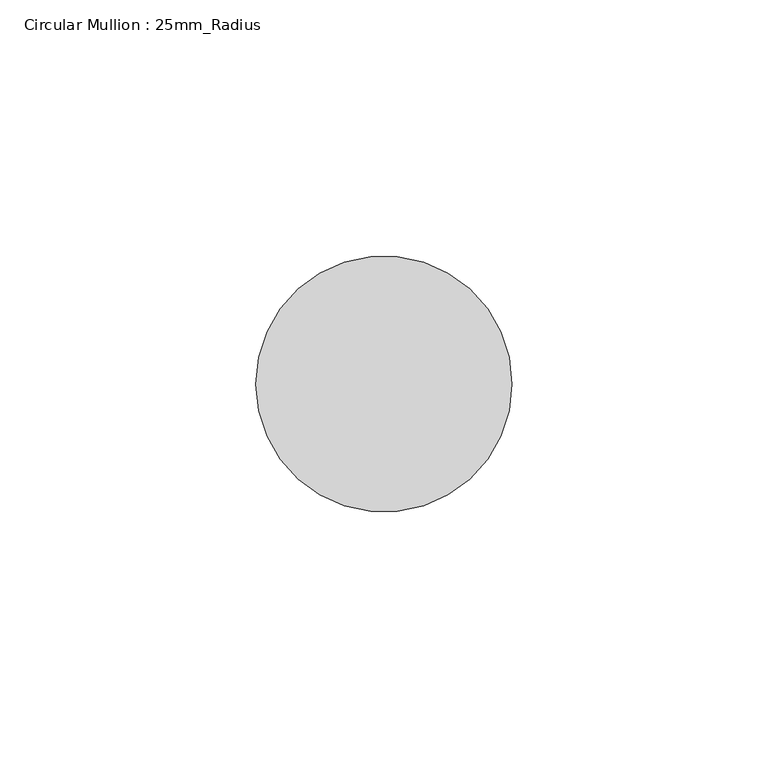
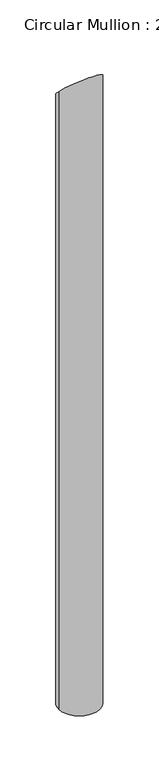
"""IFC4 building model written with IfcOpenShell, lengths in millimetres: member geometry, Circular Mullion : 25mm_Radius."""

from ifc_helpers import new_model, si_unit, frame, origin, place, context, project, spatial, circle_curve, ellipse_curve, source, transform, mapped, element, save
from ifc_brep_helpers import plane_surface, cylinder_surface, advanced_brep


def circular_mullion_25mm_radius_82ae8ffa(model_context):
    return source(origin(), model_context, "Body", "AdvancedBrep", [
        advanced_brep(
        [(0.0, 0.0, -799.9965329), (-50.0, 0.0, -799.9965329), (-50.0, 0.0, 0.0), (0.0, 0.0, 0.0)],
        [
            (0, 1, circle_curve(frame((-25.0, 0.0, -799.9965329), z_axis=(0.0, 0.0, -1.0), x_axis=(1.0, 0.0, 0.0)), 25.0)),
            (1, 0, circle_curve(frame((-25.0, 0.0, -799.9965329), z_axis=(0.0, 0.0, -1.0), x_axis=(1.0, 0.0, 0.0)), 25.0)),
            (2, 3, ellipse_curve(frame((-25.0, 0.0, 0.0), z_axis=(0.0, -0.7071067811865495, -0.7071067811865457), x_axis=(0.0, -0.7071067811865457, 0.7071067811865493)), 35.3553391, 25.0)),
            (3, 0),
            (1, 2),
            (3, 2, ellipse_curve(frame((-25.0, 0.0, 0.0), z_axis=(0.0, -0.7071067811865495, -0.7071067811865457), x_axis=(0.0, -0.7071067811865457, 0.7071067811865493)), 35.3553391, 25.0)),
        ],
        [
            plane_surface(frame((0.0, -50.0, -799.9965329), z_axis=(0.0, 0.0, -1.0), x_axis=(-1.0, 0.0, 0.0))),
            cylinder_surface(frame((-25.0, 0.0, 0.0), z_axis=(0.0, 0.0, 1.0), x_axis=(1.0, 0.0, 0.0)), 25.0),
            plane_surface(frame((-304.8, 0.0, 0.0), z_axis=(0.0, 0.7071067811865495, 0.7071067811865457), x_axis=(0.0, 0.7071067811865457, -0.7071067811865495))),
        ],
        [
            (0, [[1, 2]]),
            (1, [[3, 4, -2, 5]]),
            (1, [[6, -5, -1, -4]]),
            (2, [[-3, -6]]),
        ],
    ),
    ])


if __name__ == "__main__":
    model = new_model("IFC4")
    model_context = context("Model", 3, world=origin())
    ifc_project = project(units=[si_unit("LENGTHUNIT", "METRE", prefix="MILLI")], contexts=[model_context])
    site = spatial("IfcSite", under=ifc_project)
    building = spatial("IfcBuilding", under=site)
    placement = place(None, origin())
    circular_mullion_25mm_radius_shape = circular_mullion_25mm_radius_82ae8ffa(model_context)
    element("IfcMember", 1, ObjectType="Circular Mullion : 25mm_Radius", at=placement, inside=building, context=model_context, shape_type="MappedRepresentation", body=[
        mapped(circular_mullion_25mm_radius_shape, transform((0.0, 0.0, 0.0), x_axis=(1.0, 0.0, 0.0), y_axis=(0.0, 1.0, 0.0), z_axis=(0.0, 0.0, 1.0))),
    ])
    save(model, "model.ifc")
